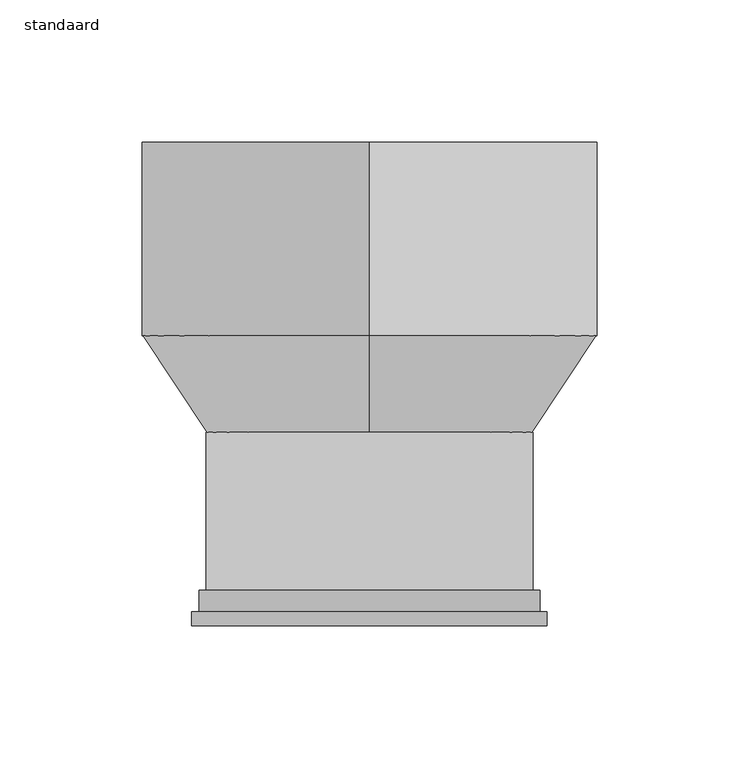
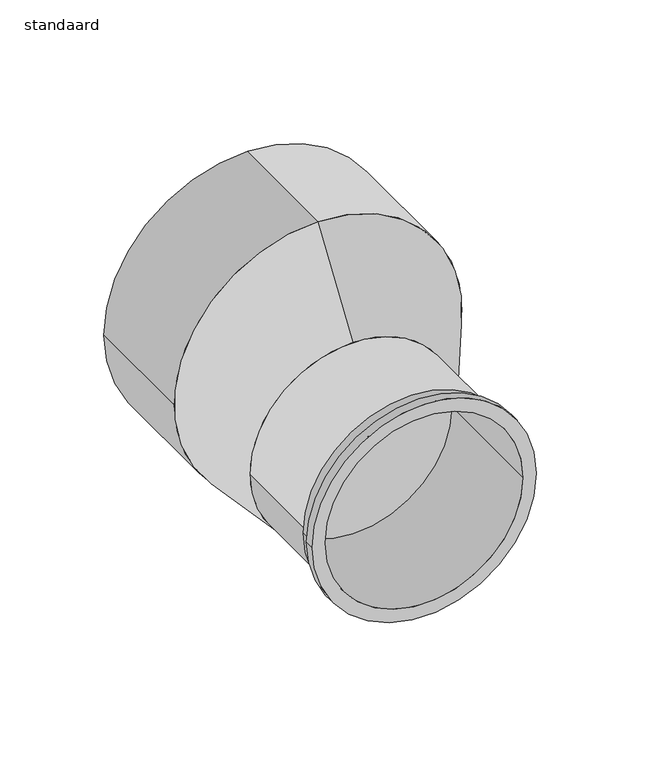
"""IFC4 building model written with IfcOpenShell, lengths in millimetres: pipe fitting geometry, 400_52_Dyka_PP_DykaStil_verloop : standaard."""

from ifc_helpers import new_model, si_unit, point, frame, frame_2d, origin, place, context, project, spatial, polyline, circle_curve, trimmed, segment, composite_curve, outline, extrude, source, transform, mapped, element, save
from ifc_brep_helpers import plane_surface, cylinder_surface, revolved_surface, spline_surface, advanced_brep


def standaard_1e6f1f34(model_context):
    return source(origin(), model_context, "Body", "SolidModel", [
        advanced_brep(
        [(-62.5, -63.0, 0.0), (62.5, -63.0, 0.0), (62.5, -68.0, 0.0), (-62.5, -68.0, 0.0), (-60.0, -63.0, 0.0), (60.0, -63.0, 0.0), (-60.0, -55.5, 0.0), (60.0, -55.5, 0.0), (-57.5, -55.5, 0.0), (57.5, -55.5, 0.0), (55.0, -68.0, 0.0), (-55.0, -68.0, 0.0), (57.5, 0.0, 0.0), (-57.5, 0.0, 0.0), (55.0, 0.0, 0.0), (-55.0, 0.0, 0.0)],
        [
            (0, 1, circle_curve(frame((0.0, -63.0, 0.0), z_axis=(0.0, -1.0, 0.0), x_axis=(1.0, 0.0, 0.0)), 62.5)),
            (1, 2),
            (2, 3, circle_curve(frame((0.0, -68.0, 0.0), z_axis=(0.0, 1.0, 0.0), x_axis=(1.0, 0.0, 0.0)), 62.5)),
            (3, 0),
            (1, 0, circle_curve(frame((0.0, -63.0, 0.0), z_axis=(0.0, -1.0, 0.0), x_axis=(1.0, 0.0, 0.0)), 62.5)),
            (3, 2, circle_curve(frame((0.0, -68.0, 0.0), z_axis=(0.0, 1.0, 0.0), x_axis=(1.0, 0.0, 0.0)), 62.5)),
            (0, 4),
            (4, 5, circle_curve(frame((0.0, -63.0, 0.0), z_axis=(0.0, -1.0, 0.0), x_axis=(1.0, 0.0, 0.0)), 60.0)),
            (5, 1),
            (5, 4, circle_curve(frame((0.0, -63.0, 0.0), z_axis=(0.0, -1.0, 0.0), x_axis=(1.0, 0.0, 0.0)), 60.0)),
            (4, 6),
            (6, 7, circle_curve(frame((0.0, -55.5, 0.0), z_axis=(0.0, -1.0, 0.0), x_axis=(1.0, 0.0, 0.0)), 60.0)),
            (7, 5),
            (7, 6, circle_curve(frame((0.0, -55.5, 0.0), z_axis=(0.0, -1.0, 0.0), x_axis=(1.0, 0.0, 0.0)), 60.0)),
            (6, 8),
            (8, 9, circle_curve(frame((0.0, -55.5, 0.0), z_axis=(0.0, -1.0, 0.0), x_axis=(-1.0, 0.0, 0.0)), 57.5)),
            (9, 7),
            (9, 8, circle_curve(frame((0.0, -55.5, 0.0), z_axis=(0.0, -1.0, 0.0), x_axis=(-1.0, 0.0, 0.0)), 57.5)),
            (10, 11, circle_curve(frame((0.0, -68.0, 0.0), z_axis=(0.0, 1.0, 0.0), x_axis=(-1.0, 0.0, 0.0)), 55.0)),
            (11, 10, circle_curve(frame((0.0, -68.0, 0.0), z_axis=(0.0, 1.0, 0.0), x_axis=(-1.0, 0.0, 0.0)), 55.0)),
            (12, 13, circle_curve(frame((0.0, 0.0, 0.0), z_axis=(0.0, 1.0, 0.0), x_axis=(-1.0, 0.0, 0.0)), 57.5)),
            (13, 12, circle_curve(frame((0.0, 0.0, 0.0), z_axis=(0.0, 1.0, 0.0), x_axis=(-1.0, 0.0, 0.0)), 57.5)),
            (14, 15, circle_curve(frame((0.0, 0.0, 0.0), z_axis=(0.0, -1.0, 0.0), x_axis=(-1.0, 0.0, 0.0)), 55.0)),
            (15, 14, circle_curve(frame((0.0, 0.0, 0.0), z_axis=(0.0, -1.0, 0.0), x_axis=(-1.0, 0.0, 0.0)), 55.0)),
            (10, 14),
            (15, 11),
            (13, 8),
            (9, 12),
        ],
        [
            cylinder_surface(frame((0.0, -68.0, 0.0), z_axis=(0.0, 1.0, 0.0), x_axis=(1.0, 0.0, 0.0)), 62.5),
            plane_surface(frame((0.0, -63.0, 0.0), z_axis=(0.0, 1.0, 0.0), x_axis=(1.0, 0.0, 0.0))),
            cylinder_surface(frame((0.0, -68.0, 0.0), z_axis=(0.0, 1.0, 0.0), x_axis=(1.0, 0.0, 0.0)), 60.0),
            plane_surface(frame((0.0, -55.5, 0.0), z_axis=(0.0, 1.0, 0.0), x_axis=(1.0, 0.0, 0.0))),
            plane_surface(frame((0.0, -68.0, 0.0), z_axis=(0.0, -1.0, 0.0), x_axis=(1.0, 0.0, 0.0))),
            plane_surface(frame((0.0, 0.0, 0.0), z_axis=(0.0, 1.0, 0.0), x_axis=(0.0, 0.0, 1.0))),
            revolved_surface(polyline([(-55.0, 0.0, 0.0), (-55.0, -68.0, 0.0)]), (0.0, -68.0, 0.0), (0.0, 1.0, 0.0)),
            cylinder_surface(frame((0.0, -68.0, 0.0), z_axis=(0.0, -1.0, 0.0), x_axis=(-1.0, 0.0, 0.0)), 57.5),
        ],
        [
            (0, [[1, 2, 3, 4]]),
            (0, [[-2, 5, -4, 6]]),
            (1, [[-1, 7, 8, 9]]),
            (1, [[-5, -9, 10, -7]]),
            (2, [[-8, 11, 12, 13]]),
            (2, [[-10, -13, 14, -11]]),
            (3, [[-12, 15, 16, 17]]),
            (3, [[-14, -17, 18, -15]]),
            (4, [[-3, -6], [19, 20]]),
            (5, [[21, 22], [23, 24]]),
            (6, [[-19, 25, -24, 26]]),
            (6, [[-20, -26, -23, -25]]),
            (7, [[-22, 27, -18, 28]]),
            (7, [[-21, -28, -16, -27]]),
        ],
    ),
        advanced_brep(
        [(0.0, 0.0, -57.5), (0.0, 0.0, 57.5), (0.0, 34.0, -52.0), (0.0, 34.0, 108.0)],
        [
            (0, 1, circle_curve(frame((0.0, 0.0, 0.0), z_axis=(0.0, -1.0, 0.0), x_axis=(0.0, 0.0, 1.0)), 57.5)),
            (1, 0, circle_curve(frame((0.0, 0.0, 0.0), z_axis=(0.0, -1.0, 0.0), x_axis=(0.0, 0.0, 1.0)), 57.5)),
            (2, 3, circle_curve(frame((0.0, 34.0, 28.0), z_axis=(0.0, 1.0, 0.0), x_axis=(0.0, 0.0, 1.0)), 80.0)),
            (3, 2, circle_curve(frame((0.0, 34.0, 28.0), z_axis=(0.0, 1.0, 0.0), x_axis=(0.0, 0.0, 1.0)), 80.0)),
            (3, 1),
            (0, 2),
        ],
        [
            plane_surface(frame((0.0, 0.0, 0.0), z_axis=(0.0, -1.0, 0.0), x_axis=(1.0, 0.0, 0.0))),
            plane_surface(frame((0.0, 34.0, 28.0), z_axis=(0.0, 1.0, 0.0), x_axis=(1.0, 0.0, 0.0))),
            spline_surface(2, 1, [[(0.0, 34.0, -52.0), (0.0, 0.0, -57.5)], [(80.0, 34.0, -52.0), (57.5, 0.0, -57.5)], [(80.0, 34.0, 28.0), (57.5, 0.0, 0.0)], [(80.0, 34.0, 108.0), (57.5, 0.0, 57.5)], [(0.0, 34.0, 108.0), (0.0, 0.0, 57.5)]], [3, 2, 3], [2, 2], [0.0, 1.0, 2.0], [0.0, 1.0], weights=[[1.0, 1.0], [0.7071067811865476, 0.7071067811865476], [1.0, 1.0], [0.7071067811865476, 0.7071067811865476], [1.0, 1.0]]),
            spline_surface(2, 1, [[(0.0, 34.0, 108.0), (0.0, 0.0, 57.5)], [(-80.0, 34.0, 108.0), (-57.5, 0.0, 57.5)], [(-80.0, 34.0, 28.0), (-57.5, 0.0, 0.0)], [(-80.0, 34.0, -52.0), (-57.5, 0.0, -57.5)], [(0.0, 34.0, -52.0), (0.0, 0.0, -57.5)]], [3, 2, 3], [2, 2], [0.0, 1.0, 2.0], [0.0, 1.0], weights=[[1.0, 1.0], [0.7071067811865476, 0.7071067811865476], [1.0, 1.0], [0.7071067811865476, 0.7071067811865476], [1.0, 1.0]]),
        ],
        [
            (0, [[1, 2]]),
            (1, [[3, 4]]),
            (2, [[-4, 5, -1, 6]]),
            (3, [[-3, -6, -2, -5]]),
        ],
    ),
        extrude(outline(composite_curve([segment(trimmed(circle_curve(frame_2d((28.0, 0.0)), 80.0), [point((108.0, 0.0))], [point((28.0, -80.0))], False, "CARTESIAN"), True, "CONTINUOUS"), segment(trimmed(circle_curve(frame_2d((28.0, 0.0)), 80.0), [point((28.0, -80.0))], [point((-52.0, 0.0))], False, "CARTESIAN"), True, "CONTINUOUS"), segment(trimmed(circle_curve(frame_2d((28.0, 0.0)), 80.0), [point((-52.0, 0.0))], [point((28.0, 80.0))], False, "CARTESIAN"), True, "CONTINUOUS"), segment(trimmed(circle_curve(frame_2d((28.0, 0.0)), 80.0), [point((28.0, 80.0))], [point((108.0, 0.0))], False, "CARTESIAN"), True, "CONTINUOUS")], self_intersect=False)), frame((0.0, 34.0, 0.0), z_axis=(0.0, 1.0, 0.0), x_axis=(0.0, 0.0, 1.0)), (0.0, 0.0, 1.0), 68.0),
    ])


if __name__ == "__main__":
    model = new_model("IFC4")
    model_context = context("Model", 3, world=origin())
    ifc_project = project(units=[si_unit("LENGTHUNIT", "METRE", prefix="MILLI")], contexts=[model_context])
    site = spatial("IfcSite", under=ifc_project)
    building = spatial("IfcBuilding", under=site)
    placement = place(None, origin())
    standaard_shape = standaard_1e6f1f34(model_context)
    element("IfcPipeFitting", 1, ObjectType="400_52_Dyka_PP_DykaStil_verloop : standaard", at=placement, inside=building, context=model_context, shape_type="MappedRepresentation", body=[
        mapped(standaard_shape, transform((0.0, 0.0, 0.0), x_axis=(1.0, 0.0, 0.0), y_axis=(0.0, 1.0, 0.0), z_axis=(0.0, 0.0, 1.0))),
    ])
    save(model, "model.ifc")
